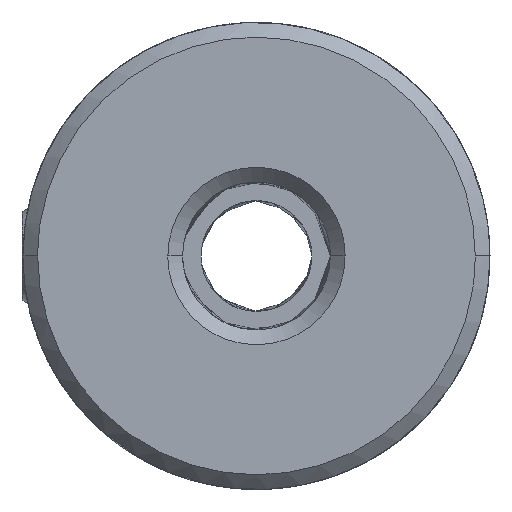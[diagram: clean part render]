
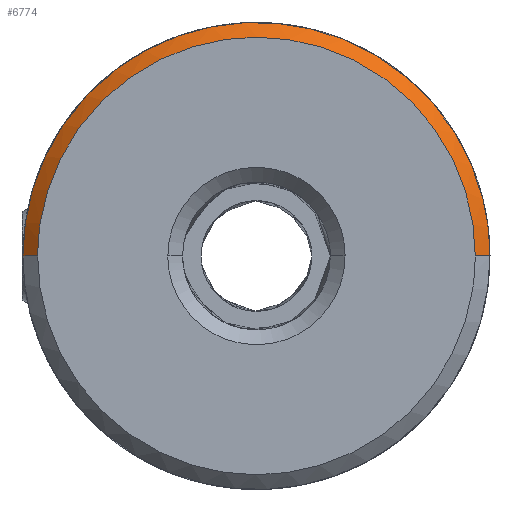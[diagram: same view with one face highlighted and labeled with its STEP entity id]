
A CAD part, front view. The second image highlights one B-rep face of the part: STEP entity #6774.
In plain terms, the highlighted free-form (B-spline) face has degree [1, 3] with [2, 13] control points.
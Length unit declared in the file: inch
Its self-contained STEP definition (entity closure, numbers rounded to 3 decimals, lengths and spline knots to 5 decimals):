
#2274=CARTESIAN_POINT('',(-0.23324,-0.4498,0.));
#2275=CARTESIAN_POINT('',(-0.23849,-0.44455,0.));
#2276=CARTESIAN_POINT('',(-0.24374,-0.4393,0.));
#2277=CARTESIAN_POINT('',(-0.24899,-0.43406,0.));
#2279=CARTESIAN_POINT('',(-0.24899,-0.43406,0.));
#2280=CARTESIAN_POINT('',(-0.24899,-0.43406,
0.01467));
#2281=CARTESIAN_POINT('',(-0.24638,-0.43406,
0.04512));
#2282=CARTESIAN_POINT('',(-0.23317,-0.43406,
0.09194));
#2283=CARTESIAN_POINT('',(-0.20997,-0.43406,
0.13707));
#2284=CARTESIAN_POINT('',(-0.17733,-0.43406,
0.17735));
#2285=CARTESIAN_POINT('',(-0.13704,-0.43406,
0.21));
#2286=CARTESIAN_POINT('',(-0.09944,-0.43406,
0.22933));
#2287=CARTESIAN_POINT('',(-0.0685,-0.43406,
0.23981));
#2288=CARTESIAN_POINT('',(-0.04524,-0.43406,
0.24524));
#2289=CARTESIAN_POINT('',(-0.02609,-0.43406,
0.24785));
#2290=CARTESIAN_POINT('',(-0.01104,-0.43406,
0.24885));
#2291=CARTESIAN_POINT('',(0.00003,-0.43406,
0.2491));
#2292=CARTESIAN_POINT('',(0.01109,-0.43406,
0.24885));
#2293=CARTESIAN_POINT('',(0.02614,-0.43406,
0.24785));
#2294=CARTESIAN_POINT('',(0.04529,-0.43406,
0.24524));
#2295=CARTESIAN_POINT('',(0.06856,-0.43406,0.23981));
#2296=CARTESIAN_POINT('',(0.09949,-0.43406,
0.22933));
#2297=CARTESIAN_POINT('',(0.1371,-0.43406,
0.21));
#2298=CARTESIAN_POINT('',(0.17738,-0.43406,
0.17735));
#2299=CARTESIAN_POINT('',(0.21003,-0.43406,
0.13707));
#2300=CARTESIAN_POINT('',(0.23322,-0.43406,
0.09194));
#2301=CARTESIAN_POINT('',(0.24644,-0.43406,
0.04512));
#2302=CARTESIAN_POINT('',(0.24904,-0.43406,
0.01467));
#2303=CARTESIAN_POINT('',(0.24904,-0.43406,0.));
#2305=CARTESIAN_POINT('',(0.23329,-0.4498,0.));
#2306=CARTESIAN_POINT('',(0.23854,-0.44455,0.));
#2307=CARTESIAN_POINT('',(0.24379,-0.4393,0.));
#2308=CARTESIAN_POINT('',(0.24904,-0.43406,0.));
#2336=CARTESIAN_POINT('',(0.23329,-0.4498,0.));
#2337=CARTESIAN_POINT('',(0.23329,-0.4498,
0.01375));
#2338=CARTESIAN_POINT('',(0.23085,-0.4498,
0.04227));
#2339=CARTESIAN_POINT('',(0.21847,-0.4498,
0.08613));
#2340=CARTESIAN_POINT('',(0.19675,-0.4498,
0.1284));
#2341=CARTESIAN_POINT('',(0.16616,-0.4498,
0.16614));
#2342=CARTESIAN_POINT('',(0.12843,-0.4498,
0.19672));
#2343=CARTESIAN_POINT('',(0.0932,-0.4498,
0.21482));
#2344=CARTESIAN_POINT('',(0.06422,-0.4498,
0.22464));
#2345=CARTESIAN_POINT('',(0.04243,-0.4498,
0.22973));
#2346=CARTESIAN_POINT('',(0.02449,-0.4498,
0.23217));
#2347=CARTESIAN_POINT('',(0.01039,-0.4498,
0.23312));
#2348=CARTESIAN_POINT('',(0.00003,-0.4498,
0.23334));
#2349=CARTESIAN_POINT('',(-0.01034,-0.4498,
0.23312));
#2350=CARTESIAN_POINT('',(-0.02444,-0.4498,
0.23217));
#2351=CARTESIAN_POINT('',(-0.04238,-0.4498,
0.22973));
#2352=CARTESIAN_POINT('',(-0.06417,-0.4498,
0.22464));
#2353=CARTESIAN_POINT('',(-0.09315,-0.4498,
0.21482));
#2354=CARTESIAN_POINT('',(-0.12838,-0.4498,
0.19672));
#2355=CARTESIAN_POINT('',(-0.16611,-0.4498,
0.16614));
#2356=CARTESIAN_POINT('',(-0.19669,-0.4498,
0.1284));
#2357=CARTESIAN_POINT('',(-0.21842,-0.4498,
0.08613));
#2358=CARTESIAN_POINT('',(-0.2308,-0.4498,
0.04227));
#2359=CARTESIAN_POINT('',(-0.23324,-0.4498,
0.01375));
#2360=CARTESIAN_POINT('',(-0.23324,-0.4498,0.));
#3155=CARTESIAN_POINT('',(0.24904,-0.43406,0.));
#3157=VERTEX_POINT('',#3155);
#3159=CARTESIAN_POINT('',(-0.24899,-0.43406,0.));
#3161=VERTEX_POINT('',#3159);
#3166=VERTEX_POINT('',#2305);
#3167=VERTEX_POINT('',#2274);
#6738=CARTESIAN_POINT('',(-0.23227,-0.45078,0.));
#6739=CARTESIAN_POINT('',(-0.23227,-0.45078,
-0.13607));
#6740=CARTESIAN_POINT('',(-0.13605,-0.45078,
-0.23229));
#6741=CARTESIAN_POINT('',(0.00003,-0.45078,
-0.23229));
#6742=CARTESIAN_POINT('',(0.1361,-0.45078,
-0.23229));
#6743=CARTESIAN_POINT('',(0.23232,-0.45078,
-0.13607));
#6744=CARTESIAN_POINT('',(0.23232,-0.45078,0.));
#6745=CARTESIAN_POINT('',(0.23232,-0.45078,
0.13607));
#6746=CARTESIAN_POINT('',(0.1361,-0.45078,
0.23229));
#6747=CARTESIAN_POINT('',(0.00003,-0.45078,
0.23229));
#6748=CARTESIAN_POINT('',(-0.13605,-0.45078,
0.23229));
#6749=CARTESIAN_POINT('',(-0.23227,-0.45078,
0.13607));
#6750=CARTESIAN_POINT('',(-0.23227,-0.45078,0.));
#6751=CARTESIAN_POINT('',(-0.24996,-0.43308,0.));
#6752=CARTESIAN_POINT('',(-0.24996,-0.43308,
-0.14644));
#6753=CARTESIAN_POINT('',(-0.14641,-0.43308,
-0.24999));
#6754=CARTESIAN_POINT('',(0.00003,-0.43308,
-0.24999));
#6755=CARTESIAN_POINT('',(0.14647,-0.43308,
-0.24999));
#6756=CARTESIAN_POINT('',(0.25002,-0.43308,
-0.14644));
#6757=CARTESIAN_POINT('',(0.25002,-0.43308,0.));
#6758=CARTESIAN_POINT('',(0.25002,-0.43308,
0.14644));
#6759=CARTESIAN_POINT('',(0.14647,-0.43308,
0.24999));
#6760=CARTESIAN_POINT('',(0.00003,-0.43308,
0.24999));
#6761=CARTESIAN_POINT('',(-0.14641,-0.43308,
0.24999));
#6762=CARTESIAN_POINT('',(-0.24996,-0.43308,
0.14644));
#6763=CARTESIAN_POINT('',(-0.24996,-0.43308,0.));
#6764=(BOUNDED_SURFACE()B_SPLINE_SURFACE(1,3,((#6738,#6739,#6740,#6741,#6742,
#6743,#6744,#6745,#6746,#6747,#6748,#6749,#6750),(#6751,#6752,#6753,#6754,#6755,
#6756,#6757,#6758,#6759,#6760,#6761,#6762,#6763)),.UNSPECIFIED.,.F.,.T.,.F.)B_SPLINE_SURFACE_WITH_KNOTS((2,2),(4,3,3,3,4),(-0.05189,0.05189),
(-3.14159,-1.5708,0.,1.5708,3.14159),
.UNSPECIFIED.)GEOMETRIC_REPRESENTATION_ITEM()RATIONAL_B_SPLINE_SURFACE(((1.,
0.805,0.805,1.,0.805,0.805,
1.,0.805,0.805,1.,0.805,
0.805,1.),(1.,0.805,0.805,1.,
0.805,0.805,1.,0.805,0.805,
1.,0.805,0.805,1.)))REPRESENTATION_ITEM('')SURFACE(
));
#6766=ORIENTED_EDGE('',*,*,#6765,.T.);
#6768=ORIENTED_EDGE('',*,*,#6767,.T.);
#6769=ORIENTED_EDGE('',*,*,#6699,.T.);
#6771=ORIENTED_EDGE('',*,*,#6770,.F.);
#6772=EDGE_LOOP('',(#6766,#6768,#6769,#6771));
#6773=FACE_OUTER_BOUND('',#6772,.F.);
#2278=B_SPLINE_CURVE_WITH_KNOTS('',3,(#2274,#2275,#2276,#2277),.UNSPECIFIED.,
.F.,.F.,(4,4),(0.,1.),.UNSPECIFIED.);
#2304=B_SPLINE_CURVE_WITH_KNOTS('',3,(#2279,#2280,#2281,#2282,#2283,#2284,#2285,
#2286,#2287,#2288,#2289,#2290,#2291,#2292,#2293,#2294,#2295,#2296,#2297,#2298,
#2299,#2300,#2301,#2302,#2303),.UNSPECIFIED.,.F.,.F.,(4,1,1,1,1,1,1,1,1,1,1,1,1,
1,1,1,1,1,1,1,1,1,4),(0.,0.0625,0.125,0.1875,0.25,0.3125,0.375,
0.40625,0.4375,0.46875,0.48438,0.5,0.51563,0.53125,0.5625,
0.59375,0.625,0.6875,0.75,0.8125,0.875,0.9375,1.),
.UNSPECIFIED.);
#2309=B_SPLINE_CURVE_WITH_KNOTS('',3,(#2305,#2306,#2307,#2308),.UNSPECIFIED.,
.F.,.F.,(4,4),(0.,1.),.UNSPECIFIED.);
#2361=B_SPLINE_CURVE_WITH_KNOTS('',3,(#2336,#2337,#2338,#2339,#2340,#2341,#2342,
#2343,#2344,#2345,#2346,#2347,#2348,#2349,#2350,#2351,#2352,#2353,#2354,#2355,
#2356,#2357,#2358,#2359,#2360),.UNSPECIFIED.,.F.,.F.,(4,1,1,1,1,1,1,1,1,1,1,1,1,
1,1,1,1,1,1,1,1,1,4),(0.,0.0625,0.125,0.1875,0.25,0.3125,0.375,
0.40625,0.4375,0.46875,0.48438,0.5,0.51563,0.53125,0.5625,
0.59375,0.625,0.6875,0.75,0.8125,0.875,0.9375,1.),
.UNSPECIFIED.);
#6699=EDGE_CURVE('',#3161,#3157,#2304,.T.);
#6765=EDGE_CURVE('',#3166,#3167,#2361,.T.);
#6767=EDGE_CURVE('',#3167,#3161,#2278,.T.);
#6770=EDGE_CURVE('',#3166,#3157,#2309,.T.);
#6774=ADVANCED_FACE('',(#6773),#6764,.T.);
